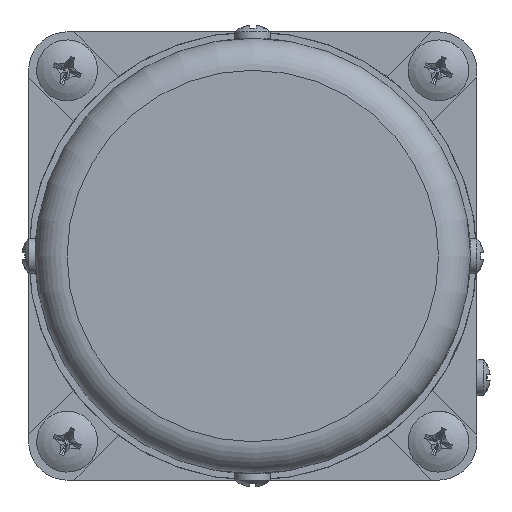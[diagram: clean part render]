
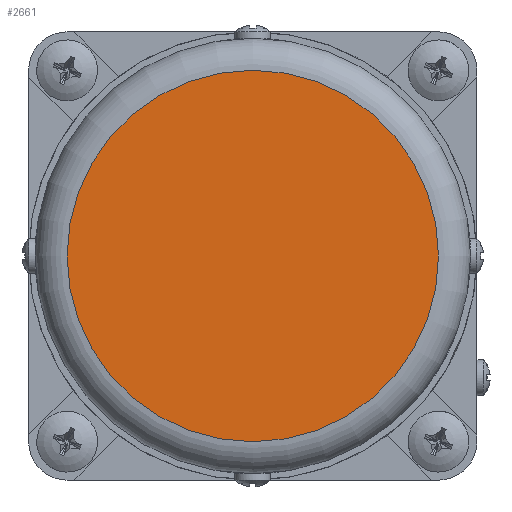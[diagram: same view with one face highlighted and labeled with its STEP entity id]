
A CAD part, left-side view. The second image highlights one B-rep face of the part: STEP entity #2661.
In plain terms, the highlighted planar face has unit normal (-1, 0, 0).
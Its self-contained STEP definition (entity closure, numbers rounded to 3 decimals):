
#1947=FACE_OUTER_BOUND('',#3848,.T.);
#2163=PLANE('',#8566);
#2661=ADVANCED_FACE('',(#1947),#2163,.T.);
#3848=EDGE_LOOP('',(#5326));
#5326=ORIENTED_EDGE('',*,*,#7230,.T.);
#6367=VERTEX_POINT('',#13689);
#7230=EDGE_CURVE('',#6367,#6367,#7770,.T.);
#7770=CIRCLE('',#8565,29.);
#8565=AXIS2_PLACEMENT_3D('',#13688,#9859,#9860);
#8566=AXIS2_PLACEMENT_3D('',#13690,#9861,#9862);
#9859=DIRECTION('',(-1.,0.,0.));
#9860=DIRECTION('',(0.,0.,-1.));
#9861=DIRECTION('',(-1.,0.,0.));
#9862=DIRECTION('',(0.,0.,-1.));
#13688=CARTESIAN_POINT('',(-136.,0.,0.));
#13689=CARTESIAN_POINT('',(-136.,0.,-29.));
#13690=CARTESIAN_POINT('',(-136.,0.,0.));
